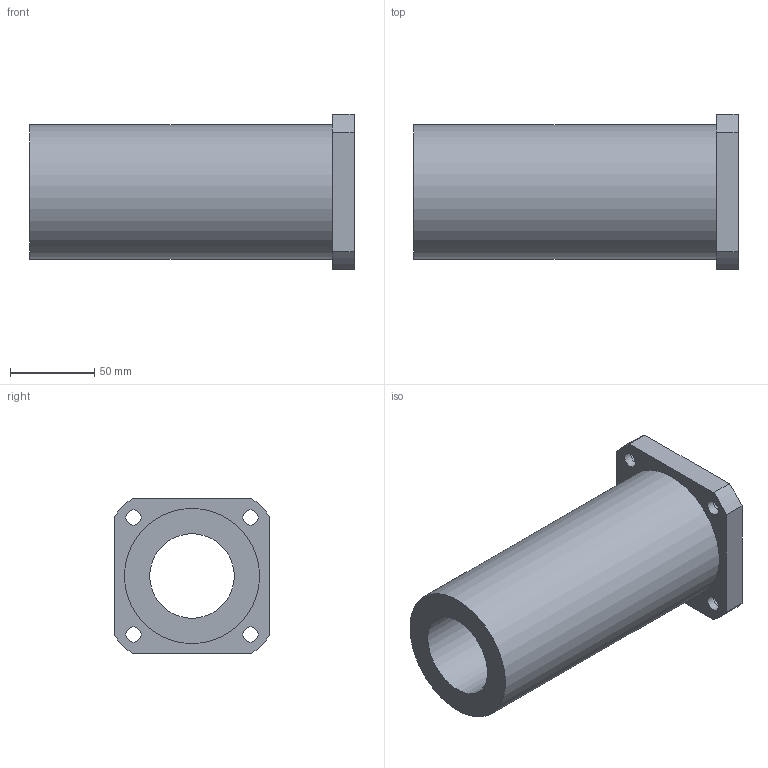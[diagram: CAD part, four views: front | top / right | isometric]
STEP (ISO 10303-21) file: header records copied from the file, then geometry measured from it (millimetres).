
FILE_DESCRIPTION(/* description */ (''),/* implementation_level */ '2;1');
FILE_NAME(/* name */ 'LMK50LUU',/* time_stamp */ '2019-07-09T15:48:56+02:00',/* author */ ('VĂ©gh MĂˇtĂ©'),/* organization */ ('Bearing Kft'),/* preprocessor_version */ 'ST-DEVELOPER v16.7',/* originating_system */ 'DEX',/* authorisation */ $);
FILE_SCHEMA (('AUTOMOTIVE_DESIGN {1 0 10303 214 3 1 1}'));
Length unit declared in the file: millimetre
Products named in the file (1): LMK50LUU
Bounding box: 192 x 92 x 92 mm (x, y, z)
Volume: 623837.3 mm3; surface area: 93707.4 mm2
Topology: 1 solids, 1 shells, 322 faces, 810 edges, 540 vertices
Faces by surface type: plane 249, bspline 57, cylinder 16
Full cylindrical faces by diameter (mm): 9 x4, 14 x4, 50 x1, 80 x1
Entity records: 12761 total; most frequent: CARTESIAN_POINT 5369, ORIENTED_EDGE 1594, DIRECTION 1247, EDGE_CURVE 797, LINE 651, VECTOR 651, VERTEX_POINT 540, EDGE_LOOP 395
